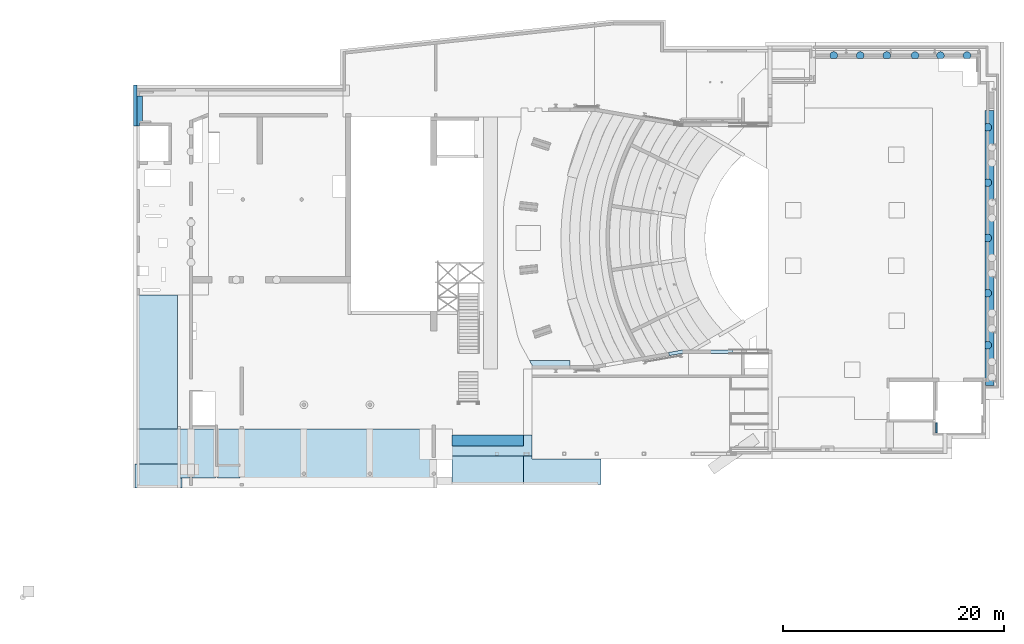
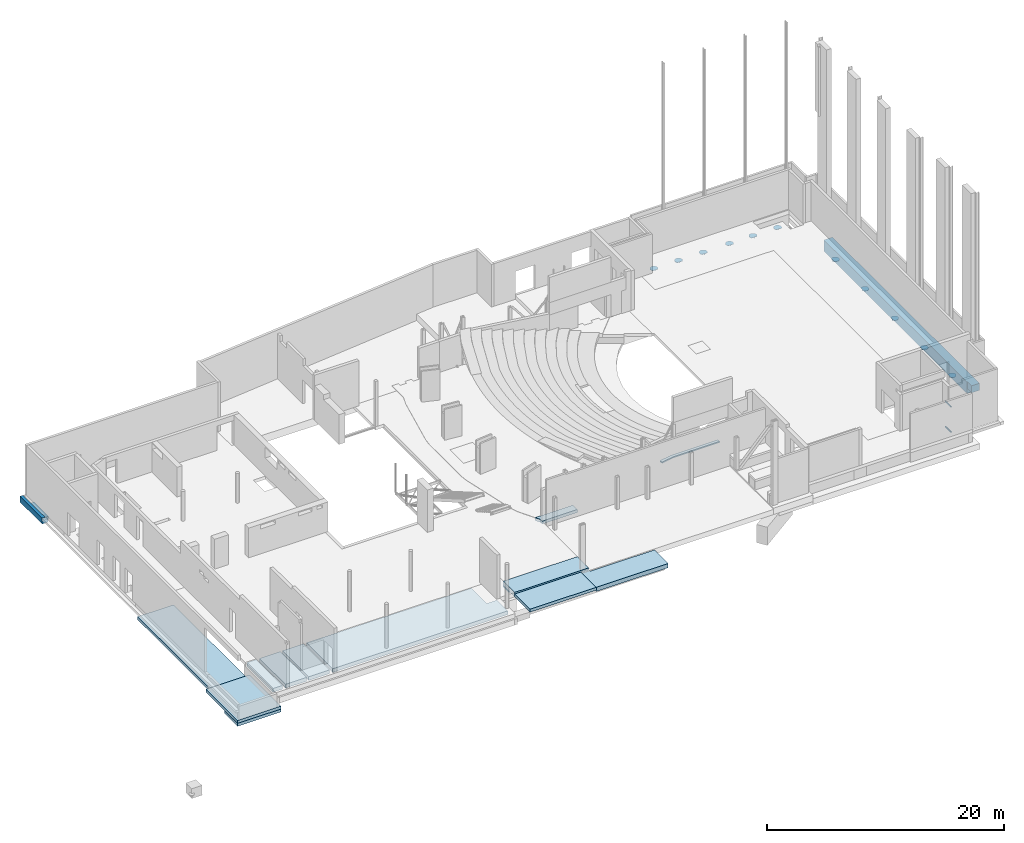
# One storey, part 22 of 34: 16 beams, 12 slabs.
"""IFC2X3 building model written with IfcOpenShell, lengths in millimetres."""

from ifc_helpers import new_model, entity, si_unit, converted_unit, derived_unit, direction, frame, frame_2d, origin, origin_2d_with_axis, place, context, subcontext, project, spatial, polyline, circle_curve, parameter, trimmed, segment, composite_curve, rectangle, outline, extrude, clip, halfspace, faceted_brep, source, transform, mapped, material, layer, layer_set, layer_usage, type_object, type_shapes, element, save


model = new_model("IFC2X3")

# Units and contexts
model_context = context("Model", 3, precision=0.01, world=origin(), true_north=direction((6.12303176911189e-17, 1.0)))
body_context = subcontext(model_context, "Body", "Model", "MODEL_VIEW")
ifc_project = project(units=[si_unit("LENGTHUNIT", "METRE", prefix="MILLI"), si_unit("AREAUNIT", "SQUARE_METRE", prefix="MILLI"), si_unit("VOLUMEUNIT", "CUBIC_METRE"), converted_unit("PLANEANGLEUNIT", "DEGREE", entity("IfcRatioMeasure", 0.0174532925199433), si_unit("PLANEANGLEUNIT", "RADIAN"), dimensions=[0, 0, 0, 0, 0, 0, 0]), si_unit("MASSUNIT", "GRAM", prefix="KILO"), derived_unit("MASSDENSITYUNIT", [(si_unit("MASSUNIT", "GRAM", prefix="KILO"), 1), (si_unit("LENGTHUNIT", "METRE"), -3)]), derived_unit("MOMENTOFINERTIAUNIT", [(si_unit("LENGTHUNIT", "METRE"), 4)]), si_unit("TIMEUNIT", "SECOND"), si_unit("FREQUENCYUNIT", "HERTZ"), si_unit("THERMODYNAMICTEMPERATUREUNIT", "DEGREE_CELSIUS"), derived_unit("THERMALTRANSMITTANCEUNIT", [(si_unit("MASSUNIT", "GRAM", prefix="KILO"), 1), (si_unit("THERMODYNAMICTEMPERATUREUNIT", "KELVIN"), -1), (si_unit("TIMEUNIT", "SECOND"), -3)]), derived_unit("VOLUMETRICFLOWRATEUNIT", [(si_unit("LENGTHUNIT", "METRE"), 3), (si_unit("TIMEUNIT", "SECOND"), -1)]), si_unit("ELECTRICCURRENTUNIT", "AMPERE"), si_unit("ELECTRICVOLTAGEUNIT", "VOLT"), si_unit("POWERUNIT", "WATT"), si_unit("FORCEUNIT", "NEWTON", prefix="KILO"), si_unit("ILLUMINANCEUNIT", "LUX"), si_unit("LUMINOUSFLUXUNIT", "LUMEN"), si_unit("LUMINOUSINTENSITYUNIT", "CANDELA"), derived_unit("USERDEFINED", [(si_unit("MASSUNIT", "GRAM", prefix="KILO"), -1), (si_unit("LENGTHUNIT", "METRE"), -2), (si_unit("TIMEUNIT", "SECOND"), 3), (si_unit("LUMINOUSFLUXUNIT", "LUMEN"), 1)]), derived_unit("LINEARVELOCITYUNIT", [(si_unit("LENGTHUNIT", "METRE"), 1), (si_unit("TIMEUNIT", "SECOND"), -1)]), si_unit("PRESSUREUNIT", "PASCAL"), derived_unit("USERDEFINED", [(si_unit("LENGTHUNIT", "METRE"), -2), (si_unit("MASSUNIT", "GRAM", prefix="KILO"), 1), (si_unit("TIMEUNIT", "SECOND"), -2)]), derived_unit("LINEARFORCEUNIT", [(si_unit("MASSUNIT", "GRAM", prefix="KILO"), 1), (si_unit("LENGTHUNIT", "METRE"), 1), (si_unit("TIMEUNIT", "SECOND"), -2), (si_unit("LENGTHUNIT", "METRE"), -1)]), derived_unit("PLANARFORCEUNIT", [(si_unit("MASSUNIT", "GRAM", prefix="KILO"), 1), (si_unit("LENGTHUNIT", "METRE"), 1), (si_unit("TIMEUNIT", "SECOND"), -2), (si_unit("LENGTHUNIT", "METRE"), -2)])], contexts=[model_context])

# Site, building, storey
site_placement = place(None, origin())
site = spatial("IfcSite", under=ifc_project, at=site_placement, Name="Theater aan de Parade", CompositionType="ELEMENT")
building_placement = place(site_placement, origin())
building = spatial("IfcBuilding", under=site, at=building_placement, Name="Theater aan de Parade", CompositionType="ELEMENT")
storey_placement = place(building_placement, frame((0.0, 0.0, 3.49116848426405e-09)))
storey = spatial("IfcBuildingStorey", under=building, at=storey_placement, Name="00 begane grond", CompositionType="ELEMENT", Elevation=3.49116848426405e-09)

# Beams
ifc_material_1 = material(Name="00_PBT_MAT_staal_S355")
beam_type_1 = type_object("IfcBeamType", Name="28_PBT_SF_staal_L-profiel:S355_L150x150x15", PredefinedType="NOTDEFINED")
beam_1_placement = place(storey_placement, frame((82542.5084217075, 14850.0, 0.0), z_axis=(0.0, 0.0, 1.0), x_axis=(0.0, 1.0, 0.0)))
element("IfcBeam", 1, at=beam_1_placement, inside=storey, type_object=beam_type_1, material=ifc_material_1, Name="28_PBT_SF_staal_L-profiel:S355_L150x150x15", ObjectType="28_PBT_SF_staal_L-profiel:S355_L150x150x15", context=body_context, shape_type="SweptSolid", body=[
    extrude(outline(composite_curve([segment(polyline([(49.6666666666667, -93.3333333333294), (56.6666666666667, -93.3333333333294)]), True, "CONTINUOUS"), segment(polyline([(56.6666666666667, -93.3333333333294), (56.6666666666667, 56.6666666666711)]), True, "CONTINUOUS"), segment(polyline([(56.6666666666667, 56.6666666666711), (-93.3333333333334, 56.6666666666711)]), True, "CONTINUOUS"), segment(polyline([(-93.3333333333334, 56.6666666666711), (-93.3333333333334, 49.6666666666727)]), True, "CONTINUOUS"), segment(trimmed(circle_curve(frame_2d((-85.3333333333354, 49.6666666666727), x_axis=(-1.0, 0.0)), 7.99999999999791), [parameter(0.0)], [parameter(90.0000000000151)], True, "PARAMETER"), True, "CONTINUOUS"), segment(polyline([(-85.3333333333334, 41.6666666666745), (25.6666666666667, 41.6666666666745)]), True, "CONTINUOUS"), segment(trimmed(circle_curve(frame_2d((25.6666666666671, 25.6666666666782), x_axis=(0.0, 1.0)), 15.9999999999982), [parameter(269.999999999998)], [parameter(0.0)], True, "PARAMETER"), False, "CONTINUOUS"), segment(polyline([(41.6666666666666, 25.6666666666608), (41.6666666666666, -85.3333333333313)]), True, "CONTINUOUS"), segment(trimmed(circle_curve(frame_2d((49.6666666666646, -85.3333333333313), x_axis=(-1.0, 0.0)), 7.99999999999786), [parameter(0.0)], [parameter(90.0000000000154)], True, "PARAMETER"), True, "CONTINUOUS")], self_intersect=False)), frame((0.0, -14.1666666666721, -143.333333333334), z_axis=(1.0, 0.0, 0.0), x_axis=(0.0, 0.0, -1.0)), (0.0, 0.0, 1.0), 910.000000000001),
])
beam_2_placement = place(storey_placement, frame((82542.5084217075, 14850.0, 0.0), z_axis=(0.0, 0.0, 1.0), x_axis=(0.0, 1.0, 0.0)))
element("IfcBeam", 2, at=beam_2_placement, inside=storey, type_object=beam_type_1, material=ifc_material_1, Name="28_PBT_SF_staal_L-profiel:S355_L150x150x15", ObjectType="28_PBT_SF_staal_L-profiel:S355_L150x150x15", context=body_context, shape_type="SweptSolid", body=[
    extrude(outline(composite_curve([segment(polyline([(49.6666666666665, -93.3333333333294), (56.6666666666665, -93.3333333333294)]), True, "CONTINUOUS"), segment(polyline([(56.6666666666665, -93.3333333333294), (56.6666666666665, 56.6666666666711)]), True, "CONTINUOUS"), segment(polyline([(56.6666666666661, 56.6666666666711), (-93.3333333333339, 56.6666666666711)]), True, "CONTINUOUS"), segment(polyline([(-93.3333333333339, 56.6666666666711), (-93.3333333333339, 49.6666666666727)]), True, "CONTINUOUS"), segment(trimmed(circle_curve(frame_2d((-85.3333333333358, 49.6666666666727), x_axis=(-1.0, 0.0)), 7.99999999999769), [parameter(0.0)], [parameter(90.0000000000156)], True, "PARAMETER"), True, "CONTINUOUS"), segment(polyline([(-85.3333333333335, 41.6666666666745), (25.6666666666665, 41.6666666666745)]), True, "CONTINUOUS"), segment(trimmed(circle_curve(frame_2d((25.666666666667, 25.6666666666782), x_axis=(0.0, 1.0)), 15.9999999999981), [parameter(269.999999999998)], [parameter(0.0)], True, "PARAMETER"), False, "CONTINUOUS"), segment(polyline([(41.6666666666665, 25.6666666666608), (41.6666666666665, -85.3333333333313)]), True, "CONTINUOUS"), segment(trimmed(circle_curve(frame_2d((49.6666666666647, -85.3333333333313), x_axis=(-1.0, 0.0)), 7.99999999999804), [parameter(0.0)], [parameter(90.0000000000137)], True, "PARAMETER"), True, "CONTINUOUS")], self_intersect=False)), frame((0.0, -14.1666666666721, 2441.66666666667), z_axis=(1.0, 0.0, 0.0), x_axis=(0.0, 0.0, -1.0)), (0.0, 0.0, 1.0), 925.000231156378),
])
ifc_material_2 = material(Name="00_PBT_MAT_beton t.p.g._C30/37")
beam_type_2 = type_object("IfcBeamType", Name="28_PBT_SF_betonbalk:C30/37_1000x590", PredefinedType="NOTDEFINED")
beam_3_placement = place(storey_placement, frame((38815.0, 13669.9996942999, -680.0)))
element("IfcBeam", 3, at=beam_3_placement, inside=storey, type_object=beam_type_2, material=ifc_material_2, Name="28_PBT_SF_betonbalk:C30/37_1000x590", ObjectType="28_PBT_SF_betonbalk:C30/37_1000x590", context=body_context, shape_type="Brep", body=[
    faceted_brep([(300.0, 0.0, 130.0), (300.0, 0.0, 0.0), (6460.0, 0.0, 0.0), (6460.0, 0.0, 130.0), (300.0, 0.705000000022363, 0.0), (0.0, 0.705000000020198, 0.0), (0.0, 1000.0, 0.0), (6460.0, 1000.0, 0.0), (0.0, 1000.0, 130.0), (6460.0, 1000.0, 130.0), (300.0, 0.705000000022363, 130.0), (0.0, 0.705000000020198, 130.0)], [[[0, 1, 2, 3]], [[1, 4, 5, 6, 7, 2]], [[6, 8, 9, 7]], [[1, 0, 10, 4]], [[5, 11, 8, 6]], [[5, 4, 10, 11]], [[10, 0, 3, 9, 8, 11]], [[3, 2, 7, 9]]]),
])
beam_type_3 = type_object("IfcBeamType", Name="28_PBT_SF_betonbalk enkele sponning:C30/37_800x950/300x350_bestaand", PredefinedType="NOTDEFINED")
beam_4_placement = place(storey_placement, frame((10004.1125537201, 42570.0, -1040.0), z_axis=(0.0, 0.0, 1.0), x_axis=(0.0, 1.0, 0.0)))
element("IfcBeam", 4, at=beam_4_placement, inside=storey, type_object=beam_type_3, material=ifc_material_2, Name="28_PBT_SF_betonbalk enkele sponning:C30/37_800x950/300x350_bestaand", ObjectType="28_PBT_SF_betonbalk enkele sponning:C30/37_800x950/300x350_bestaand", context=body_context, shape_type="Brep", body=[
    faceted_brep([(3733.0, 0.0, 0.0), (3733.0, 0.0, 600.0), (3733.0, -300.0, 600.0), (3733.0, -300.0, 0.0), (0.0, 0.0, 600.0), (0.0, 0.0, 350.0), (0.0, 0.0, 0.0), (0.0, -550.0, 0.0), (0.0, -550.0, 350.0), (0.0, -300.0, 350.0), (0.0, -300.0, 600.0), (3403.0, -300.0, 600.0), (2733.0, -800.0, 0.0), (2733.0, -800.0, 350.0), (1130.0, -800.0, 350.0), (830.0, -800.0, 350.0), (300.0, -800.0, 350.0), (300.0, -800.0, 0.0), (830.0, -800.0, 0.0), (1130.0, -800.0, 0.0), (2733.0, -300.0, 0.0), (300.0, -550.0, 0.0), (2733.0, -300.0, 350.0), (300.0, -550.0, 350.0)], [[[0, 1, 2, 3]], [[4, 5, 6, 7, 8, 9, 10]], [[4, 10, 11, 2, 1]], [[12, 13, 14, 15, 16, 17, 18, 19]], [[6, 0, 3, 20, 12, 19, 18, 17, 21, 7]], [[6, 5, 4, 1, 0]], [[13, 22, 9, 8, 23, 16, 15, 14]], [[22, 20, 3, 2, 11, 10, 9]], [[13, 12, 20, 22]], [[23, 21, 17, 16]], [[21, 23, 8, 7]]]),
])
ifc_material_3 = material(Name="00_PBT_MAT_beton t.p.g._C40/50")
beam_type_4 = type_object("IfcBeamType", Name="28_PBT_SF_betonbalk:C40/50_835x1620", PredefinedType="NOTDEFINED")
beam_5_placement = place(storey_placement, frame((86961.0, 19149.9999114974, -740.0), z_axis=(0.0, 0.0, 1.0), x_axis=(0.0, 1.0, 0.0)))
element("IfcBeam", 5, at=beam_5_placement, inside=storey, type_object=beam_type_4, material=ifc_material_3, Name="28_PBT_SF_betonbalk:C40/50_835x1620", ObjectType="28_PBT_SF_betonbalk:C40/50_835x1620", context=body_context, shape_type="Brep", body=[
    faceted_brep([(0.0, -835.0, 450.0), (0.0, -835.0, 1170.0), (0.0, -55.0, 1170.0), (0.0, -55.0, 450.0), (24811.8724291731, 0.0, 1170.0), (24811.8724291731, 0.0, 0.0), (660.000332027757, 0.0, 0.0), (660.000332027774, 0.0, 1170.0), (24811.8724291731, -835.0, 0.0), (660.000332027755, -835.0, 0.0), (24811.8724291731, -835.0, 1170.0), (660.000332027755, -835.0, 450.0), (24811.872429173, -835.0, 450.0), (660.000332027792, -55.0, 1170.0), (310.000332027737, -55.0, 1170.0), (660.000332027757, -55.0, 450.0)], [[[0, 1, 2, 3]], [[4, 5, 6, 7]], [[5, 8, 9, 6]], [[10, 1, 0, 11, 9, 8, 12]], [[10, 4, 7, 13, 14, 2, 1]], [[8, 5, 4, 10, 12]], [[11, 0, 3, 15]], [[6, 9, 11, 15, 13, 7]], [[13, 15, 3, 2, 14]]]),
])
beam_type_5 = type_object("IfcBeamType", Name="28_PBT_SF_staal_krans:28_PBT_SF_staal_krans_d=700_355.6_VOID_250 2", PredefinedType="BEAM", material=ifc_material_1)
shared_shape_1 = source(origin(), body_context, "Body", "SweptSolid", [
    clip(extrude(rectangle(XDim=150.000000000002, YDim=15.0, at=frame_2d((-7.105427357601e-15, 1.46549439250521e-14), x_axis=(1.0, 0.0))), frame((-126.400000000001, -218.931222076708, -175.0), z_axis=(0.0, 0.0, 1.0), x_axis=(0.499999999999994, 0.866025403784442, 0.0)), (0.0, 0.0, 1.0), 149.999999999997), halfspace(frame((-170.395190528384, -280.133127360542, -75.0), z_axis=(-0.277350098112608, -0.480384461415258, -0.832050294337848), x_axis=(0.866025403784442, -0.499999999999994, 0.0)), False)),
    clip(extrude(rectangle(XDim=150.000000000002, YDim=15.0, at=frame_2d((4.2632564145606e-14, 2.1316282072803e-14), x_axis=(1.0, 0.0))), frame((126.399999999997, 218.931222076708, -175.0), z_axis=(0.0, 0.0, 1.0), x_axis=(0.499999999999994, 0.866025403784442, 0.0)), (0.0, 0.0, 1.0), 149.999999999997), halfspace(frame((157.404809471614, 287.633127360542, -75.0), z_axis=(0.277350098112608, 0.480384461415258, -0.832050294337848), x_axis=(0.866025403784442, -0.499999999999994, 0.0)), False)),
    clip(extrude(rectangle(XDim=150.000000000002, YDim=15.0, at=frame_2d((3.5527136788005e-14, -1.68753899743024e-14), x_axis=(1.0, 0.0))), frame((-126.4, 218.931222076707, -175.0), z_axis=(0.0, 0.0, 1.0), x_axis=(-0.499999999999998, 0.86602540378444, 0.0)), (0.0, 0.0, 1.0), 149.999999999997), halfspace(frame((-170.395190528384, 280.133127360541, -75.0), z_axis=(-0.277350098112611, 0.480384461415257, -0.832050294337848), x_axis=(0.86602540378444, 0.499999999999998, 0.0)), False)),
    clip(extrude(rectangle(XDim=150.000000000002, YDim=15.0, at=frame_2d((-7.105427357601e-15, -4.44089209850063e-15), x_axis=(1.0, 0.0))), frame((126.4, -218.931222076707, -175.0), z_axis=(0.0, 0.0, 1.0), x_axis=(-0.499999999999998, 0.86602540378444, 0.0)), (0.0, 0.0, 1.0), 149.999999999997), halfspace(frame((157.404809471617, -287.633127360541, -75.0), z_axis=(0.277350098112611, -0.480384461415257, -0.832050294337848), x_axis=(0.86602540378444, 0.499999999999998, 0.0)), False)),
    clip(extrude(rectangle(XDim=15.0, YDim=72.1999999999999, at=frame_2d((0.0, -1.4210854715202e-14), x_axis=(1.0, 0.0))), frame((213.9, 0.0, -175.0), z_axis=(0.0, 0.0, 1.0), x_axis=(0.0, -1.0, 0.0)), (0.0, 0.0, 1.0), 149.999999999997), halfspace(frame((250.0, -7.5, -126.866666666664), z_axis=(0.554700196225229, 0.0, -0.832050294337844), x_axis=(0.0, 1.0, 0.0)), False)),
    clip(extrude(rectangle(XDim=15.0, YDim=150.000000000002, at=frame_2d((0.0, -1.4210854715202e-14), x_axis=(1.0, 0.0))), frame((-252.800000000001, 0.0, -175.0), z_axis=(0.0, 0.0, 1.0), x_axis=(0.0, -1.0, 0.0)), (0.0, 0.0, 1.0), 149.999999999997), halfspace(frame((-327.800000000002, -7.5, -75.0), z_axis=(-0.554700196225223, 0.0, -0.832050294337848), x_axis=(0.0, 1.0, 0.0)), False)),
    extrude(outline(composite_curve([segment(polyline([(-244.948974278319, 0.0), (244.948974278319, 0.0)]), True, "CONTINUOUS"), segment(trimmed(circle_curve(frame_2d((0.0, 250.0), x_axis=(0.69985421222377, -0.714285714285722)), 350.0), [parameter(0.0)], [parameter(271.169382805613)], True, "PARAMETER"), True, "CONTINUOUS")], self_intersect=False)), frame((250.0, 0.0, -25.0), z_axis=(0.0, 0.0, 1.0), x_axis=(0.0, 1.0, 0.0)), (0.0, 0.0, 1.0), 25.0),
])
type_shapes(beam_type_5, [shared_shape_1])
for number, where, z_axis, x_axis in (
    (6, (87211.0, 37462.4999999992, -740.0), (0.0, 0.0, 1.0), (-1.0, 0.0, 0.0)),
    (7, (87211.0, 42462.4999999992, -740.0), (0.0, 0.0, 1.0), (-1.0, 0.0, 0.0)),
    (8, (87211.0, 32462.4999999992, -740.0), (0.0, 0.0, 1.0), (-1.0, 0.0, 0.0)),
    (9, (87211.0, 27462.4999999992, -740.0), (0.0, 0.0, 1.0), (-1.0, 0.0, 0.0)),
    (10, (87211.0, 22770.0, -740.0), (0.0, 0.0, 1.0), (-1.0, 0.0, 0.0)),
):
    element("IfcBeam", number, at=place(storey_placement, frame(where, z_axis=z_axis, x_axis=x_axis)), inside=storey, type_object=beam_type_5, material=ifc_material_1, Name="28_PBT_SF_staal_krans:28_PBT_SF_staal_krans_d=700_355.6_VOID_250 2", ObjectType="28_PBT_SF_staal_krans:28_PBT_SF_staal_krans_d=700_355.6_VOID_250 2", context=body_context, shape_type="MappedRepresentation", body=[
        mapped(shared_shape_1, transform((0.0, 0.0, 0.0), scale=1.0)),
    ])
beam_type_6 = type_object("IfcBeamType", Name="28_PBT_SF_staal_krans:28_PBT_SF_staal_krans_d=700_323.9_VOID_250", PredefinedType="BEAM", material=ifc_material_1)
shared_shape_2 = source(origin(), body_context, "Body", "SweptSolid", [
    clip(extrude(rectangle(XDim=150.000000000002, YDim=15.0, at=frame_2d((-7.105427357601e-15, -4.44089209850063e-15), x_axis=(1.0, 0.0))), frame((-118.475000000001, -205.204719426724, -175.0), z_axis=(0.0, 0.0, 1.0), x_axis=(0.499999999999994, 0.866025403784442, 0.0)), (0.0, 0.0, 1.0), 149.999999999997), halfspace(frame((-162.470190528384, -266.406624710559, -75.0), z_axis=(-0.277350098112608, -0.480384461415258, -0.832050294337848), x_axis=(0.866025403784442, -0.499999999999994, 0.0)), False)),
    clip(extrude(rectangle(XDim=150.000000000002, YDim=15.0, at=origin_2d_with_axis()), frame((118.474999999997, 205.204719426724, -175.0), z_axis=(0.0, 0.0, 1.0), x_axis=(0.499999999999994, 0.866025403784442, 0.0)), (0.0, 0.0, 1.0), 149.999999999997), halfspace(frame((149.479809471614, 273.906624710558, -75.0), z_axis=(0.277350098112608, 0.480384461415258, -0.832050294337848), x_axis=(0.866025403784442, -0.499999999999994, 0.0)), False)),
    clip(extrude(rectangle(XDim=150.000000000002, YDim=15.0, at=frame_2d((2.1316282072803e-14, 3.99680288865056e-15), x_axis=(1.0, 0.0))), frame((-118.475, 205.204719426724, -175.0), z_axis=(0.0, 0.0, 1.0), x_axis=(-0.499999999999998, 0.86602540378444, 0.0)), (0.0, 0.0, 1.0), 149.999999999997), halfspace(frame((-162.470190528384, 266.406624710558, -75.0), z_axis=(-0.277350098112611, 0.480384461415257, -0.832050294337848), x_axis=(0.86602540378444, 0.499999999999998, 0.0)), False)),
    clip(extrude(rectangle(XDim=150.000000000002, YDim=15.0, at=frame_2d((-2.1316282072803e-14, 4.44089209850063e-15), x_axis=(1.0, 0.0))), frame((118.475, -205.204719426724, -175.0), z_axis=(0.0, 0.0, 1.0), x_axis=(-0.499999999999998, 0.86602540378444, 0.0)), (0.0, 0.0, 1.0), 149.999999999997), halfspace(frame((149.479809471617, -273.906624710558, -75.0), z_axis=(0.277350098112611, -0.480384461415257, -0.832050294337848), x_axis=(0.86602540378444, 0.499999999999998, 0.0)), False)),
    clip(extrude(rectangle(XDim=15.0, YDim=88.05, at=frame_2d((0.0, 1.77635683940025e-14), x_axis=(1.0, 0.0))), frame((205.975, 0.0, -175.0), z_axis=(0.0, 0.0, 1.0), x_axis=(0.0, -1.0, 0.0)), (0.0, 0.0, 1.0), 149.999999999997), halfspace(frame((250.0, -7.5, -116.299999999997), z_axis=(0.554700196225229, 0.0, -0.832050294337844), x_axis=(0.0, 1.0, 0.0)), False)),
    clip(extrude(rectangle(XDim=15.0, YDim=150.000000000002, at=frame_2d((0.0, 1.4210854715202e-14), x_axis=(1.0, 0.0))), frame((-236.950000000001, 0.0, -175.0), z_axis=(0.0, 0.0, 1.0), x_axis=(0.0, -1.0, 0.0)), (0.0, 0.0, 1.0), 149.999999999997), halfspace(frame((-311.950000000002, -7.5, -75.0), z_axis=(-0.554700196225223, 0.0, -0.832050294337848), x_axis=(0.0, 1.0, 0.0)), False)),
    extrude(outline(composite_curve([segment(polyline([(-244.948974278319, 0.0), (244.948974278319, 0.0)]), True, "CONTINUOUS"), segment(trimmed(circle_curve(frame_2d((0.0, 250.0), x_axis=(0.69985421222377, -0.714285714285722)), 350.0), [parameter(0.0)], [parameter(271.169382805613)], True, "PARAMETER"), True, "CONTINUOUS")], self_intersect=False)), frame((250.0, 0.0, -25.0), z_axis=(0.0, 0.0, 1.0), x_axis=(0.0, 1.0, 0.0)), (0.0, 0.0, 1.0), 25.0),
])
type_shapes(beam_type_6, [shared_shape_2])
for number, where, z_axis, x_axis in (
    (11, (85336.8107076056, 48947.0, -740.0), (0.0, 0.0, 1.0), (0.0, -1.0, 0.0)),
    (12, (82936.8107076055, 48947.0, -740.0), (0.0, 0.0, 1.0), (0.0, -1.0, 0.0)),
    (13, (80636.8107076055, 48947.0, -740.0), (0.0, 0.0, 1.0), (0.0, -1.0, 0.0)),
    (14, (78085.8127325, 48947.0, -740.0), (0.0, 0.0, 1.0), (0.0, -1.0, 0.0)),
    (15, (75685.8127325, 48947.0, -740.0), (0.0, 0.0, 1.0), (0.0, -1.0, 0.0)),
    (16, (73285.8127325, 48947.0, -740.0), (0.0, 0.0, 1.0), (0.0, -1.0, 0.0)),
):
    element("IfcBeam", number, at=place(storey_placement, frame(where, z_axis=z_axis, x_axis=x_axis)), inside=storey, type_object=beam_type_6, material=ifc_material_1, Name="28_PBT_SF_staal_krans:28_PBT_SF_staal_krans_d=700_323.9_VOID_250", ObjectType="28_PBT_SF_staal_krans:28_PBT_SF_staal_krans_d=700_323.9_VOID_250", context=body_context, shape_type="MappedRepresentation", body=[
        mapped(shared_shape_2, transform((0.0, 0.0, 0.0), scale=1.0)),
    ])

# Slabs
ifc_layer_1 = layer(ifc_material_2, 300.0)
ifc_layer_set_1 = layer_set([ifc_layer_1], Name="Floor:28_PBT_FL_beton t.p.g._d=300_C30/37")
ifc_layer_usage_1 = layer_usage(ifc_layer_set_1, "AXIS3", "POSITIVE", 0.0)
slab_type_1 = type_object("IfcSlabType", Name="Floor:28_PBT_FL_beton t.p.g._d=300_C30/37", PredefinedType="FLOOR", material=ifc_layer_set_1)
slab_1_placement = place(storey_placement, origin())
element("IfcSlab", 17, at=slab_1_placement, inside=storey, type_object=slab_type_1, material=ifc_layer_usage_1, Name="Floor:28_PBT_FL_beton t.p.g._d=300_C30/37", ObjectType="Floor:28_PBT_FL_beton t.p.g._d=300_C30/37", PredefinedType="FLOOR", context=body_context, shape_type="SweptSolid", body=[
    extrude(rectangle(XDim=12130.0, YDim=3504.11331215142, at=frame_2d((-3.59250407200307e-11, 0.0), x_axis=(1.0, 0.0))), frame((12242.0566560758, 21255.0, -1500.0), z_axis=(0.0, 0.0, -1.0), x_axis=(0.0, 1.0, 0.0)), (0.0, 0.0, 1.0), 300.0),
])
ifc_layer_2 = layer(ifc_material_2, 300.0)
ifc_layer_set_2 = layer_set([ifc_layer_2], Name="Foundation Slab:13_PBT_FS_beton t.p.g._d=300_C30/37")
ifc_layer_usage_2 = layer_usage(ifc_layer_set_2, "AXIS3", "POSITIVE", 0.0)
slab_type_2 = type_object("IfcSlabType", Name="Foundation Slab:13_PBT_FS_beton t.p.g._d=300_C30/37", PredefinedType="BASESLAB", material=ifc_layer_set_2)
slab_2_placement = place(storey_placement, origin())
element("IfcSlab", 18, at=slab_2_placement, inside=storey, type_object=slab_type_2, material=ifc_layer_usage_2, Name="Foundation Slab:13_PBT_FS_beton t.p.g._d=300_C30/37", ObjectType="Foundation Slab:13_PBT_FS_beton t.p.g._d=300_C30/37", PredefinedType="BASESLAB", context=body_context, shape_type="SweptSolid", body=[
    extrude(rectangle(XDim=5320.00000000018, YDim=4240.00075843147, at=frame_2d((1.13686837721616e-12, 0.0), x_axis=(1.0, 0.0))), frame((12274.1129329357, 12530.0, -1500.0), z_axis=(0.0, 0.0, -1.0), x_axis=(0.0, 1.0, 0.0)), (0.0, 0.0, 1.0), 300.0),
])
ifc_material_4 = material(Name="00_PBT_MAT_beton t.p.g.")
ifc_layer_3 = layer(ifc_material_4, 120.0)
ifc_layer_set_3 = layer_set([ifc_layer_3], Name="Floor:28_PBT_FL_beton t.p.g._d=120_bestaand")
ifc_layer_usage_3 = layer_usage(ifc_layer_set_3, "AXIS3", "POSITIVE", 0.0)
slab_type_3 = type_object("IfcSlabType", Name="Floor:28_PBT_FL_beton t.p.g._d=120_bestaand", PredefinedType="FLOOR", material=ifc_layer_set_3)
slab_3_placement = place(storey_placement, origin())
element("IfcSlab", 19, at=slab_3_placement, inside=storey, type_object=slab_type_3, material=ifc_layer_usage_3, Name="Floor:28_PBT_FL_beton t.p.g._d=120_bestaand", ObjectType="Floor:28_PBT_FL_beton t.p.g._d=120_bestaand", PredefinedType="FLOOR", context=body_context, shape_type="SweptSolid", body=[
    extrude(outline(polyline([(-223.944518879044, -3432.90371252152), (76.055481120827, -3432.90371252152), (76.0554811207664, 1069.61567282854), (295.643607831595, 2324.40496831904), (0.134467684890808, 2376.11906784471), (-223.944518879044, 1095.66771605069), (-223.944518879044, -3432.90371252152)])), frame((60737.0962874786, 22116.0554811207, 960.0), z_axis=(0.0, 0.0, -1.0), x_axis=(0.0, -1.0, 0.0)), (0.0, 0.0, 1.0), 120.0),
])
ifc_material_5 = material(Name="00_PBT_MAT_systeemvloer")
ifc_layer_4 = layer(ifc_material_5, 200.0)
ifc_material_6 = material(Name="00_PBT_MAT_isolatie")
ifc_layer_5 = layer(ifc_material_6, 180.0)
ifc_layer_set_4 = layer_set([ifc_layer_4, ifc_layer_5], Name="Floor:28_PBT_FL_geïsoleerde kanaalplaat_d=200")
ifc_layer_usage_4 = layer_usage(ifc_layer_set_4, "AXIS3", "POSITIVE", 0.0)
slab_type_4 = type_object("IfcSlabType", Name="Floor:28_PBT_FL_geïsoleerde kanaalplaat_d=200", PredefinedType="FLOOR", material=ifc_layer_set_4)
slab_4_placement = place(storey_placement, origin())
element("IfcSlab", 20, at=slab_4_placement, inside=storey, type_object=slab_type_4, material=ifc_layer_usage_4, Name="Floor:28_PBT_FL_geïsoleerde kanaalplaat_d=200", ObjectType="Floor:28_PBT_FL_geïsoleerde kanaalplaat_d=200", PredefinedType="FLOOR", context=body_context, shape_type="SweptSolid", body=[
    extrude(outline(polyline([(-2080.55451747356, -11033.4674183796), (2340.11840788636, -11033.4674183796), (2340.11840788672, 5016.93370918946), (-259.563890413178, 5016.93370918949), (-259.563890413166, 6016.53370919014), (-2080.55451747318, 6016.53370919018), (-2080.55451747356, -11033.4674183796)])), frame((30987.3244208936, 12849.8815921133, -150.0), z_axis=(0.0, 0.0, -1.0), x_axis=(0.0, 1.0, 0.0)), (0.0, 0.0, 1.0), 380.0),
])
ifc_layer_usage_5 = layer_usage(ifc_layer_set_4, "AXIS3", "POSITIVE", 0.0)
slab_type_5 = type_object("IfcSlabType", Name="Floor:28_PBT_FL_geïsoleerde kanaalplaat_d=200", PredefinedType="FLOOR", material=ifc_layer_set_4)
slab_5_placement = place(storey_placement, origin())
element("IfcSlab", 21, at=slab_5_placement, inside=storey, type_object=slab_type_5, material=ifc_layer_usage_5, Name="Floor:28_PBT_FL_geïsoleerde kanaalplaat_d=200", ObjectType="Floor:28_PBT_FL_geïsoleerde kanaalplaat_d=200", PredefinedType="FLOOR", context=body_context, shape_type="SweptSolid", body=[
    extrude(rectangle(XDim=4420.67292539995, YDim=2050.00000000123, at=frame_2d((-1.13686837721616e-12, -2.92175172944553e-11), x_axis=(1.0, 0.0))), frame((16378.857002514, 12979.6635373, -150.0), z_axis=(0.0, 0.0, -1.0), x_axis=(0.0, 1.0, 0.0)), (0.0, 0.0, 1.0), 380.0),
])
ifc_layer_usage_6 = layer_usage(ifc_layer_set_4, "AXIS3", "POSITIVE", 0.0)
slab_type_6 = type_object("IfcSlabType", Name="Floor:28_PBT_FL_geïsoleerde kanaalplaat_d=200", PredefinedType="FLOOR", material=ifc_layer_set_4)
slab_6_placement = place(storey_placement, origin())
element("IfcSlab", 22, at=slab_6_placement, inside=storey, type_object=slab_type_6, material=ifc_layer_usage_6, Name="Floor:28_PBT_FL_geïsoleerde kanaalplaat_d=200", ObjectType="Floor:28_PBT_FL_geïsoleerde kanaalplaat_d=200", PredefinedType="FLOOR", context=body_context, shape_type="SweptSolid", body=[
    extrude(rectangle(XDim=4420.67292539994, YDim=2050.0000000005, at=frame_2d((0.0, -2.59205990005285e-11), x_axis=(1.0, 0.0))), frame((18628.8570025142, 12979.6635373, -150.0), z_axis=(0.0, 0.0, -1.0), x_axis=(0.0, 1.0, 0.0)), (0.0, 0.0, 1.0), 380.0),
])
ifc_layer_usage_7 = layer_usage(ifc_layer_set_4, "AXIS3", "POSITIVE", 0.0)
slab_type_7 = type_object("IfcSlabType", Name="Floor:28_PBT_FL_geïsoleerde kanaalplaat_d=200", PredefinedType="FLOOR", material=ifc_layer_set_4)
slab_7_placement = place(storey_placement, origin())
element("IfcSlab", 23, at=slab_7_placement, inside=storey, type_object=slab_type_7, material=ifc_layer_usage_7, Name="Floor:28_PBT_FL_geïsoleerde kanaalplaat_d=200", ObjectType="Floor:28_PBT_FL_geïsoleerde kanaalplaat_d=200", PredefinedType="FLOOR", context=body_context, shape_type="SweptSolid", body=[
    extrude(rectangle(XDim=4420.67292539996, YDim=900.000000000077, at=frame_2d((-9.09494701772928e-13, -2.60058641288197e-11), x_axis=(1.0, 0.0))), frame((14603.8570025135, 12979.6635373, -150.0), z_axis=(0.0, 0.0, -1.0), x_axis=(0.0, 1.0, 0.0)), (0.0, 0.0, 1.0), 380.0),
])
ifc_layer_6 = layer(ifc_material_2, 430.0)
ifc_layer_set_5 = layer_set([ifc_layer_6], Name="Floor:28_PBT_FL_beton t.p.g._d=430_C30/37")
ifc_layer_usage_8 = layer_usage(ifc_layer_set_5, "AXIS3", "POSITIVE", 0.0)
slab_type_8 = type_object("IfcSlabType", Name="Floor:28_PBT_FL_beton t.p.g._d=430_C30/37", PredefinedType="FLOOR", material=ifc_layer_set_5)
slab_8_placement = place(storey_placement, origin())
element("IfcSlab", 24, at=slab_8_placement, inside=storey, type_object=slab_type_8, material=ifc_layer_usage_8, Name="Floor:28_PBT_FL_beton t.p.g._d=430_C30/37", ObjectType="Floor:28_PBT_FL_beton t.p.g._d=430_C30/37", PredefinedType="FLOOR", context=body_context, shape_type="SweptSolid", body=[
    extrude(outline(polyline([(-1633.33333333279, -2589.75385248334), (956.666666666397, -2589.75385248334), (956.666666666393, -1820.49229503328), (676.666666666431, -1820.49229503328), (676.666666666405, 4410.24614751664), (-1633.33333333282, 4410.24614751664), (-1633.33333333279, -2589.75385248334)])), frame((47864.7538524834, 11793.3333333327, -250.0), z_axis=(0.0, 0.0, -1.0), x_axis=(0.0, 1.0, 0.0)), (0.0, 0.0, 1.0), 430.0),
])
ifc_layer_7 = layer(ifc_material_2, 460.0)
ifc_layer_set_6 = layer_set([ifc_layer_7], Name="Floor:28_PBT_FL_beton t.p.g._d=460_C30/37")
ifc_layer_usage_9 = layer_usage(ifc_layer_set_6, "AXIS3", "POSITIVE", 0.0)
slab_type_9 = type_object("IfcSlabType", Name="Floor:28_PBT_FL_beton t.p.g._d=460_C30/37", PredefinedType="FLOOR", material=ifc_layer_set_6)
slab_9_placement = place(storey_placement, origin())
element("IfcSlab", 25, at=slab_9_placement, inside=storey, type_object=slab_type_9, material=ifc_layer_usage_9, Name="Floor:28_PBT_FL_beton t.p.g._d=460_C30/37", ObjectType="Floor:28_PBT_FL_beton t.p.g._d=460_C30/37", PredefinedType="FLOOR", context=body_context, shape_type="SweptSolid", body=[
    extrude(rectangle(XDim=1919.9996943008, YDim=7229.26155745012, at=frame_2d((1.08002495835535e-12, 4.32009983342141e-12), x_axis=(1.0, 0.0))), frame((42429.6307787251, 13709.9998471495, -90.0), z_axis=(0.0, 0.0, -1.0), x_axis=(0.0, 1.0, 0.0)), (0.0, 0.0, 1.0), 460.0),
])
ifc_layer_8 = layer(ifc_material_2, 600.0)
ifc_layer_set_7 = layer_set([ifc_layer_8], Name="Foundation Slab:13_PBT_FS_beton t.p.g._d=600_C30/37")
ifc_layer_usage_10 = layer_usage(ifc_layer_set_7, "AXIS3", "POSITIVE", 0.0)
slab_type_10 = type_object("IfcSlabType", Name="Foundation Slab:13_PBT_FS_beton t.p.g._d=600_C30/37", PredefinedType="BASESLAB", material=ifc_layer_set_7)
slab_10_placement = place(storey_placement, origin())
element("IfcSlab", 26, at=slab_10_placement, inside=storey, type_object=slab_type_10, material=ifc_layer_usage_10, Name="Foundation Slab:13_PBT_FS_beton t.p.g._d=600_C30/37", ObjectType="Foundation Slab:13_PBT_FS_beton t.p.g._d=600_C30/37", PredefinedType="BASESLAB", context=body_context, shape_type="SweptSolid", body=[
    extrude(rectangle(XDim=4240.00075843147, YDim=2180.00000000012, at=frame_2d((424.000075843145, 18.0000000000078), x_axis=(1.0, 0.0))), frame((12698.1130087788, 10978.0, -2100.0), z_axis=(0.0, 0.0, 1.0), x_axis=(-1.0, 0.0, 0.0)), (0.0, 0.0, 1.0), 299.999999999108),
])
ifc_layer_usage_11 = layer_usage(ifc_layer_set_1, "AXIS3", "POSITIVE", 0.0)
slab_type_11 = type_object("IfcSlabType", Name="Floor:28_PBT_FL_beton t.p.g._d=300_C30/37", PredefinedType="FLOOR", material=ifc_layer_set_1)
slab_11_placement = place(storey_placement, origin())
element("IfcSlab", 27, at=slab_11_placement, inside=storey, type_object=slab_type_11, material=ifc_layer_usage_11, Name="Floor:28_PBT_FL_beton t.p.g._d=300_C30/37", ObjectType="Floor:28_PBT_FL_beton t.p.g._d=300_C30/37", PredefinedType="FLOOR", context=body_context, shape_type="SweptSolid", body=[
    extrude(rectangle(XDim=2589.99999999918, YDim=6460.00000000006, at=frame_2d((1.02318153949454e-12, -2.04636307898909e-12), x_axis=(1.0, 0.0))), frame((42045.0, 11455.0, -250.0), z_axis=(0.0, 0.0, -1.0), x_axis=(0.0, 1.0, 0.0)), (0.0, 0.0, 1.0), 300.0),
])
ifc_layer_usage_12 = layer_usage(ifc_layer_set_1, "AXIS3", "POSITIVE", 0.0)
slab_type_12 = type_object("IfcSlabType", Name="Floor:28_PBT_FL_beton t.p.g._d=300_C30/37", PredefinedType="FLOOR", material=ifc_layer_set_1)
slab_12_placement = place(storey_placement, origin())
element("IfcSlab", 28, at=slab_12_placement, inside=storey, type_object=slab_type_12, material=ifc_layer_usage_12, Name="Floor:28_PBT_FL_beton t.p.g._d=300_C30/37", ObjectType="Floor:28_PBT_FL_beton t.p.g._d=300_C30/37", PredefinedType="FLOOR", context=body_context, shape_type="SweptSolid", body=[
    extrude(outline(polyline([(-2104.85797918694, -360.0), (1320.8804997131, -360.0), (1320.8804997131, -60.0), (1567.9549589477, 390.0), (-2104.85797918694, 390.0), (-2104.85797918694, -360.0)])), frame((47365.1420208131, 20990.0, -60.0), z_axis=(0.0, 0.0, -1.0), x_axis=(-1.0, 0.0, 0.0)), (0.0, 0.0, 1.0), 300.0),
])

save(model, "model.ifc")
